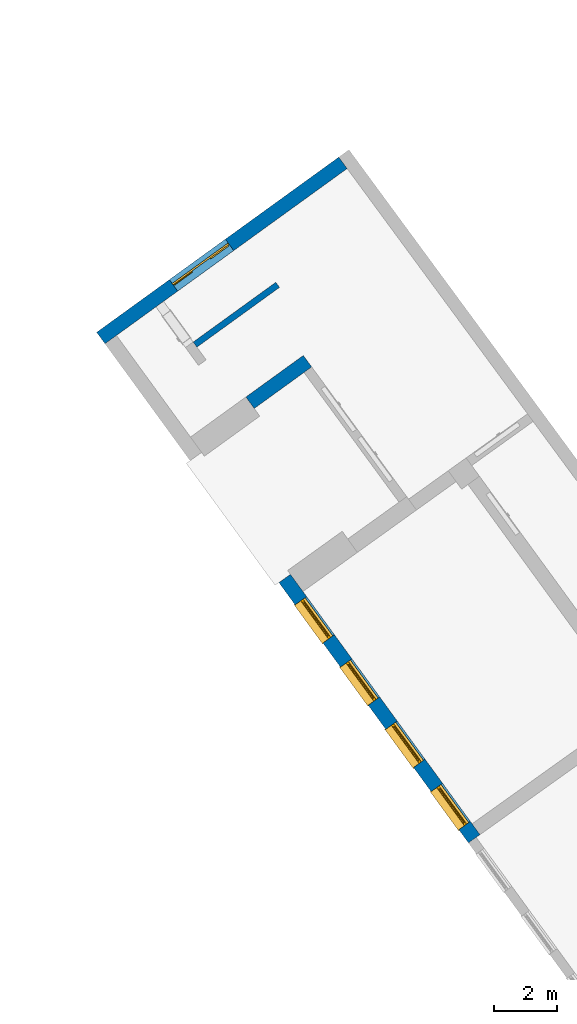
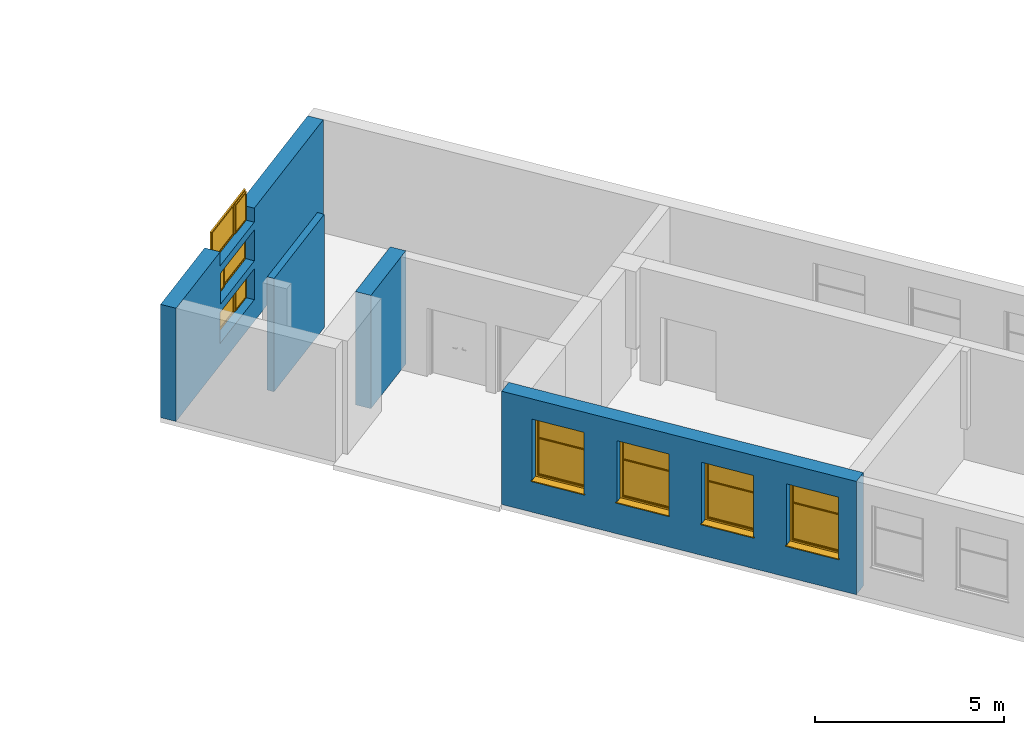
"""IFC2X3 building model written with IfcOpenShell, lengths in millimetres."""

from ifc_helpers import new_model, entity, si_unit, converted_unit, derived_unit, direction, frame, frame_2d, origin, place, context, subcontext, project, spatial, polyline, rectangle, outline, extrude, faceted_brep, source, transform, mapped, material, material_list, layer, layer_set, layer_usage, type_object, type_shapes, element, fill, save


model = new_model("IFC2X3")

# Units and contexts
model_context = context("Model", 3, precision=0.01, world=origin(), true_north=direction((6.123031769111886e-17, 1.0)))
body_context = subcontext(model_context, "Body", "Model", "MODEL_VIEW")
ifc_project = project(units=[si_unit("LENGTHUNIT", "METRE", prefix="MILLI"), si_unit("AREAUNIT", "SQUARE_METRE"), si_unit("VOLUMEUNIT", "CUBIC_METRE"), converted_unit("PLANEANGLEUNIT", "DEGREE", entity("IfcRatioMeasure", 0.017453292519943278), si_unit("PLANEANGLEUNIT", "RADIAN"), dimensions=[0, 0, 0, 0, 0, 0, 0]), si_unit("MASSUNIT", "GRAM", prefix="KILO"), derived_unit("MASSDENSITYUNIT", [(si_unit("MASSUNIT", "GRAM", prefix="KILO"), 1), (si_unit("LENGTHUNIT", "METRE"), -3)]), derived_unit("MOMENTOFINERTIAUNIT", [(si_unit("LENGTHUNIT", "METRE"), 4)]), si_unit("TIMEUNIT", "SECOND"), si_unit("FREQUENCYUNIT", "HERTZ"), si_unit("THERMODYNAMICTEMPERATUREUNIT", "DEGREE_CELSIUS"), derived_unit("THERMALTRANSMITTANCEUNIT", [(si_unit("MASSUNIT", "GRAM", prefix="KILO"), 1), (si_unit("THERMODYNAMICTEMPERATUREUNIT", "KELVIN"), -1), (si_unit("TIMEUNIT", "SECOND"), -3)]), derived_unit("THERMALCONDUCTANCEUNIT", [(si_unit("MASSUNIT", "GRAM", prefix="KILO"), 1), (si_unit("LENGTHUNIT", "METRE"), 1), (si_unit("THERMODYNAMICTEMPERATUREUNIT", "KELVIN"), -1), (si_unit("TIMEUNIT", "SECOND"), -3)]), derived_unit("VOLUMETRICFLOWRATEUNIT", [(si_unit("LENGTHUNIT", "METRE"), 3), (si_unit("TIMEUNIT", "SECOND"), -1)]), derived_unit("MASSFLOWRATEUNIT", [(si_unit("MASSUNIT", "GRAM", prefix="KILO"), 1), (si_unit("TIMEUNIT", "SECOND"), -1)]), derived_unit("ROTATIONALFREQUENCYUNIT", [(si_unit("TIMEUNIT", "SECOND"), -1)]), si_unit("ELECTRICCURRENTUNIT", "AMPERE"), si_unit("ELECTRICVOLTAGEUNIT", "VOLT"), si_unit("POWERUNIT", "WATT"), converted_unit("FORCEUNIT", "KIP", entity("IfcRatioMeasure", 2.088543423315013e-05), si_unit("FORCEUNIT", "NEWTON"), dimensions=[1, 1, -2, 0, 0, 0, 0]), si_unit("ILLUMINANCEUNIT", "LUX"), si_unit("LUMINOUSFLUXUNIT", "LUMEN"), si_unit("LUMINOUSINTENSITYUNIT", "CANDELA"), derived_unit("USERDEFINED", [(si_unit("MASSUNIT", "GRAM", prefix="KILO"), -1), (si_unit("LENGTHUNIT", "METRE"), -2), (si_unit("TIMEUNIT", "SECOND"), 3), (si_unit("LUMINOUSFLUXUNIT", "LUMEN"), 1)]), derived_unit("USERDEFINED", [(si_unit("MASSUNIT", "GRAM", prefix="KILO"), 1), (si_unit("LENGTHUNIT", "METRE"), 3), (si_unit("TIMEUNIT", "SECOND"), -3), (si_unit("ELECTRICCURRENTUNIT", "AMPERE"), -2)]), derived_unit("USERDEFINED", [(si_unit("LENGTHUNIT", "METRE"), 2), (si_unit("TIMEUNIT", "SECOND"), -2)]), derived_unit("SOUNDPOWERUNIT", [(si_unit("MASSUNIT", "GRAM", prefix="KILO"), 1), (si_unit("LENGTHUNIT", "METRE"), 2), (si_unit("TIMEUNIT", "SECOND"), -3)]), derived_unit("SOUNDPRESSUREUNIT", [(si_unit("MASSUNIT", "GRAM", prefix="KILO"), 1), (si_unit("LENGTHUNIT", "METRE"), -1), (si_unit("TIMEUNIT", "SECOND"), -2)]), derived_unit("LINEARVELOCITYUNIT", [(si_unit("LENGTHUNIT", "METRE"), 1), (si_unit("TIMEUNIT", "SECOND"), -1)]), si_unit("PRESSUREUNIT", "PASCAL"), derived_unit("USERDEFINED", [(si_unit("LENGTHUNIT", "METRE"), -2), (si_unit("MASSUNIT", "GRAM", prefix="KILO"), 1), (si_unit("TIMEUNIT", "SECOND"), -2)]), derived_unit("LINEARFORCEUNIT", [(si_unit("MASSUNIT", "GRAM", prefix="KILO"), 1), (si_unit("LENGTHUNIT", "METRE"), 1), (si_unit("TIMEUNIT", "SECOND"), -2), (si_unit("LENGTHUNIT", "METRE"), -1)]), derived_unit("PLANARFORCEUNIT", [(si_unit("MASSUNIT", "GRAM", prefix="KILO"), 1), (si_unit("LENGTHUNIT", "METRE"), 1), (si_unit("TIMEUNIT", "SECOND"), -2), (si_unit("LENGTHUNIT", "METRE"), -2)]), derived_unit("SPECIFICHEATCAPACITYUNIT", [(si_unit("LENGTHUNIT", "METRE"), 2), (si_unit("TIMEUNIT", "SECOND"), -2), (si_unit("THERMODYNAMICTEMPERATUREUNIT", "KELVIN"), -1)]), derived_unit("VAPORPERMEABILITYUNIT", [(si_unit("TIMEUNIT", "SECOND"), 1), (si_unit("LENGTHUNIT", "METRE"), -1)]), derived_unit("DYNAMICVISCOSITYUNIT", [(si_unit("MASSUNIT", "GRAM", prefix="KILO"), 1), (si_unit("LENGTHUNIT", "METRE"), -1), (si_unit("TIMEUNIT", "SECOND"), -1)]), derived_unit("THERMALEXPANSIONCOEFFICIENTUNIT", [(si_unit("THERMODYNAMICTEMPERATUREUNIT", "KELVIN"), -1)])], contexts=[model_context])

# Site, building, storey
site_placement = place(None, frame((0.0, 0.0, 0.0), z_axis=(0.0, 0.0, 1.0), x_axis=(0.8191520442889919, 0.5735764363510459, 0.0)))
site = spatial("IfcSite", under=ifc_project, at=site_placement, Name="Default", CompositionType="ELEMENT")
building_placement = place(site_placement, origin())
building = spatial("IfcBuilding", under=site, at=building_placement, CompositionType="ELEMENT")
storey_1_placement = place(building_placement, origin())
storey_1 = spatial("IfcBuildingStorey", under=building, at=storey_1_placement, Name="1.EG +0.00", CompositionType="ELEMENT", Elevation=-4.331468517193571e-12)

# Wall, openings, window
ifc_material_1 = material(Name="Analytical Wall Surface_CJC")
ifc_layer_1 = layer(ifc_material_1, 450.00000000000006)
ifc_layer_set_1 = layer_set([ifc_layer_1], Name="Basic Wall:Wand_Aussen_45")
ifc_layer_usage_1 = layer_usage(ifc_layer_set_1, "AXIS2", "POSITIVE", -225.00000000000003)
wall_type_1 = type_object("IfcWallType", Name="Basic Wall:Wand_Aussen_45", PredefinedType="STANDARD", material=ifc_layer_set_1)
wall_1_placement = place(storey_1_placement, frame((-182178.95525917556, 197988.26782530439, -1150.0), z_axis=(0.0, 0.0, 1.0), x_axis=(-0.9998806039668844, -0.015452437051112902, 0.0)))
wall_1 = element("IfcWallStandardCase", 1, at=wall_1_placement, inside=storey_1, type_object=wall_type_1, material=ifc_layer_usage_1, Name="Basic Wall:Wand_Aussen_45", ObjectType="Basic Wall:Wand_Aussen_45", context=body_context, shape_type="SweptSolid", body=[
    extrude(outline(polyline([(9512.112756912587, -225.0), (9510.723220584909, 225.0), (9060.721075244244, 225.0), (7510.713685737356, 225.0), (7210.71225551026, 225.0), (0.0, 225.0), (3.521261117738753, -225.0), (9512.112756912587, -225.0)])), origin(), (0.0, 0.0, 1.0), 3650.0000000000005),
])
opening_1_placement = place(wall_1_placement, frame((6662.115200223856, 225.0, 3200.0)))
opening_1 = element("IfcOpeningElement", 2, at=opening_1_placement, cuts=wall_1, Name="Fenster_Aussen_KH_CJC:Fenster_Aussen_KH_CJC:1", ObjectType="Opening", context=body_context, shape_type="SweptSolid", body=[
    extrude(rectangle(XDim=999.9999999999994, YDim=2200.0, at=frame_2d((499.9999999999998, 1100.0000000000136), x_axis=(1.0, 0.0))), frame((0.0, 0.0, 0.0), z_axis=(0.0, -1.0, 0.0), x_axis=(0.0, 0.0, 1.0)), (0.0, 0.0, 1.0), 449.99999999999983),
])
opening_2_placement = place(wall_1_placement, frame((6655.162433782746, 225.0, 1950.0)))
opening_2 = element("IfcOpeningElement", 3, at=opening_2_placement, cuts=wall_1, Name="Fenster_Aussen_KH_CJC:Fenster_Aussen_KH_CJC:1", ObjectType="Opening", context=body_context, shape_type="SweptSolid", body=[
    extrude(rectangle(XDim=999.9999999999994, YDim=2200.0, at=frame_2d((499.9999999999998, 1100.0), x_axis=(1.0, 0.0))), frame((0.0, 0.0, 0.0), z_axis=(0.0, -1.0, 0.0), x_axis=(0.0, 0.0, 1.0)), (0.0, 0.0, 1.0), 449.99999999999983),
])
opening_3_placement = place(wall_1_placement, frame((6662.115200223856, 225.0, 700.0)))
opening_3 = element("IfcOpeningElement", 4, at=opening_3_placement, cuts=wall_1, Name="Fenster_Aussen_KH_CJC:Fenster_Aussen_KH_CJC:1", ObjectType="Opening", context=body_context, shape_type="SweptSolid", body=[
    extrude(rectangle(XDim=999.9999999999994, YDim=2200.0, at=frame_2d((499.9999999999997, 1100.0000000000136), x_axis=(1.0, 0.0))), frame((0.0, 0.0, 0.0), z_axis=(0.0, -1.0, 0.0), x_axis=(0.0, 0.0, 1.0)), (0.0, 0.0, 1.0), 449.99999999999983),
])
ifc_material_2 = material(Name="Glass")
ifc_material_3 = material(Name="<Unnamed>")
ifc_material_list_1 = material_list([ifc_material_2, ifc_material_3])
window_style_1 = type_object("IfcWindowStyle", Name="Fenster_Aussen_KH_CJC:Fenster_Aussen_KH_CJC", ConstructionType="NOTDEFINED", OperationType="NOTDEFINED", ParameterTakesPrecedence=False, Sizeable=False, material=ifc_material_list_1)
shared_shape_1 = source(origin(), body_context, "Body", "SweptSolid", [
    extrude(rectangle(XDim=1374.9999999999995, YDim=9.999999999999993, at=frame_2d((0.0, -4.440892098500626e-15), x_axis=(1.0, 0.0))), frame((1462.5000000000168, 275.0, 50.0)), (0.0, 0.0, 1.0), 900.0000000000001),
    extrude(rectangle(XDim=645.0000000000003, YDim=9.999999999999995, at=frame_2d((-2.842170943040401e-14, 0.0), x_axis=(1.0, 0.0))), frame((387.5000000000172, 230.0, 65.0)), (0.0, 0.0, 1.0), 869.9999999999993),
    extrude(outline(polyline([(-352.5000000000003, -465.0), (352.5, -465.0), (352.5, 465.0), (-352.5000000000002, 465.0), (-352.5000000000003, -465.0)]), holes=[polyline([(-322.50000000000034, -435.0), (-322.50000000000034, 435.0), (322.50000000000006, 435.0), (322.50000000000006, -435.0), (-322.50000000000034, -435.0)])]), frame((387.5000000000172, 250.0, 500.0), z_axis=(0.0, -1.0, 0.0), x_axis=(-1.0, 0.0, 0.0)), (0.0, 0.0, 1.0), 39.99999999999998),
    extrude(outline(polyline([(-1100.0, -500.0), (1100.0, -500.0), (1100.0, 500.0), (-1100.0, 500.0), (-1100.0, -500.0)]), holes=[polyline([(325.0, -450.0), (-1050.0, -450.0), (-1050.0, 450.0), (325.0, 450.0), (325.0, -450.0)]), polyline([(375.0, -450.0), (375.0, 450.0), (1050.0, 450.0), (1050.0, -450.0), (375.0, -450.0)])]), frame((1100.0, 300.0, 500.0), z_axis=(0.0, -1.0, 0.0), x_axis=(-1.0, 0.0, 0.0)), (0.0, 0.0, 1.0), 50.0),
])
type_shapes(window_style_1, [shared_shape_1])
window_1_placement = place(opening_2_placement, frame((0.0, 0.0, 0.0), z_axis=(0.0, 0.0, 1.0), x_axis=(-1.0, 0.0, 0.0)))
window_1 = element("IfcWindow", 5, at=window_1_placement, inside=storey_1, type_object=window_style_1, material=ifc_material_list_1, Name="Fenster_Aussen_KH_CJC:Fenster_Aussen_KH_CJC", ObjectType="Fenster_Aussen_KH_CJC:Fenster_Aussen_KH_CJC", OverallHeight=999.9999999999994, OverallWidth=2199.999999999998, context=body_context, shape_type="MappedRepresentation", body=[
    mapped(shared_shape_1, transform((0.0, 0.0, 0.0), scale=1.0)),
])
fill(opening_2, window_1)

# Storey
storey_2_placement = place(building_placement, frame((0.0, 0.0, -1150.0)))
storey_2 = spatial("IfcBuildingStorey", under=building, at=storey_2_placement, Name="6.EG KH -1.15", CompositionType="ELEMENT", Elevation=-1150.0000000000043)

# Window
window_style_2 = type_object("IfcWindowStyle", Name="Fenster_Aussen_KH_CJC:Fenster_Aussen_KH_CJC", ConstructionType="NOTDEFINED", OperationType="NOTDEFINED", ParameterTakesPrecedence=False, Sizeable=False, material=ifc_material_list_1)
shared_shape_2 = source(origin(), body_context, "Body", "SweptSolid", [
    extrude(rectangle(XDim=9.999999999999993, YDim=1374.9999999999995, at=frame_2d((4.440892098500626e-15, 0.0), x_axis=(1.0, 0.0))), frame((737.4999999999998, 275.0, 50.0), z_axis=(0.0, 0.0, 1.0), x_axis=(0.0, 1.0, 0.0)), (0.0, 0.0, 1.0), 900.0000000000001),
    extrude(rectangle(XDim=9.999999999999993, YDim=645.0000000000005, at=frame_2d((8.881784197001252e-16, -8.526512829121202e-14), x_axis=(1.0, 0.0))), frame((1812.499999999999, 230.0, 65.0), z_axis=(0.0, 0.0, 1.0), x_axis=(0.0, 1.0, 0.0)), (0.0, 0.0, 1.0), 869.9999999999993),
    extrude(outline(polyline([(-352.5000000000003, -465.0), (352.5000000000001, -465.0), (352.5000000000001, 465.0), (-352.5000000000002, 465.0), (-352.5000000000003, -465.0)]), holes=[polyline([(-322.5000000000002, -435.0), (-322.5000000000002, 435.0), (322.50000000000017, 435.0), (322.50000000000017, -435.0), (-322.5000000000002, -435.0)])]), frame((1812.4999999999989, 210.0, 500.0), z_axis=(0.0, 1.0, 0.0), x_axis=(1.0, 0.0, 0.0)), (0.0, 0.0, 1.0), 39.99999999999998),
    extrude(outline(polyline([(-1100.0, -500.0), (1100.0, -500.0), (1100.0, 500.0), (-1100.0, 500.0), (-1100.0, -500.0)]), holes=[polyline([(325.0, -450.0), (-1050.0, -450.0), (-1050.0, 450.0), (325.0, 450.0), (325.0, -450.0)]), polyline([(375.0, -450.0), (375.0, 450.0), (1050.0, 450.0), (1050.0, -450.0), (375.0, -450.0)])]), frame((1100.0, 250.0, 500.0), z_axis=(0.0, 1.0, 0.0), x_axis=(1.0, 0.0, 0.0)), (0.0, 0.0, 1.0), 50.0),
])
type_shapes(window_style_2, [shared_shape_2])
window_2_placement = place(opening_3_placement, frame((0.0, 0.0, 0.0), z_axis=(0.0, 0.0, 1.0), x_axis=(-1.0, 0.0, 0.0)))
window_2 = element("IfcWindow", 6, at=window_2_placement, inside=storey_2, type_object=window_style_2, material=ifc_material_list_1, Name="Fenster_Aussen_KH_CJC:Fenster_Aussen_KH_CJC", ObjectType="Fenster_Aussen_KH_CJC:Fenster_Aussen_KH_CJC", OverallHeight=999.9999999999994, OverallWidth=2200.0000000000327, context=body_context, shape_type="MappedRepresentation", body=[
    mapped(shared_shape_2, transform((0.0, 0.0, 0.0), scale=1.0)),
])

fill(opening_3, window_2)

window_3_placement = place(opening_1_placement, frame((0.0, 0.0, 0.0), z_axis=(0.0, 0.0, 1.0), x_axis=(-1.0, 0.0, 0.0)))
window_3 = element("IfcWindow", 7, at=window_3_placement, inside=storey_1, type_object=window_style_2, material=ifc_material_list_1, Name="Fenster_Aussen_KH_CJC:Fenster_Aussen_KH_CJC", ObjectType="Fenster_Aussen_KH_CJC:Fenster_Aussen_KH_CJC", OverallHeight=999.9999999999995, OverallWidth=2200.0000000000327, context=body_context, shape_type="MappedRepresentation", body=[
    mapped(shared_shape_2, transform((0.0, 0.0, 0.0), scale=1.0)),
])

fill(opening_1, window_3)

# Wall, openings, windows
ifc_layer_usage_2 = layer_usage(ifc_layer_set_1, "AXIS2", "NEGATIVE", 225.00000000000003)
wall_2_placement = place(storey_1_placement, frame((-191095.77080403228, 177972.46779767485, -1150.0), z_axis=(0.0, 0.0, 1.0), x_axis=(-0.01853983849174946, 0.9998281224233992, 0.0)))
wall_2 = element("IfcWallStandardCase", 8, at=wall_2_placement, inside=storey_1, type_object=wall_type_1, material=ifc_layer_usage_2, Name="Basic Wall:Wand_Aussen_45", ObjectType="Basic Wall:Wand_Aussen_45", context=body_context, shape_type="SweptSolid", body=[
    extrude(outline(polyline([(10245.939618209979, -225.0), (10249.087066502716, 225.0), (4.136605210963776, 225.0), (0.0, -225.0), (425.0179561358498, -225.0), (9570.923107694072, -225.0), (10245.939618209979, -225.0)])), origin(), (0.0, 0.0, 1.0), 3650.000000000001),
])
opening_4_placement = place(wall_2_placement, frame((2020.9231076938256, 225.0, 1000.0)))
opening_4 = element("IfcOpeningElement", 9, at=opening_4_placement, cuts=wall_2, Name="Windows_Sgl_Horz_Bars:200x150:1", ObjectType="Opening", context=body_context, shape_type="SweptSolid", body=[
    extrude(rectangle(XDim=2000.000000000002, YDim=1500.0, at=frame_2d((1000.0000000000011, 750.0000000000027), x_axis=(-1.0, 0.0))), frame((0.0, 0.0, 0.0), z_axis=(0.0, -1.0, 0.0), x_axis=(0.0, 0.0, 1.0)), (0.0, 0.0, 1.0), 450.00000000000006),
])
opening_5_placement = place(wall_2_placement, frame((4470.923107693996, 225.0, 1000.0)))
opening_5 = element("IfcOpeningElement", 10, at=opening_5_placement, cuts=wall_2, Name="Windows_Sgl_Horz_Bars:200x150:1", ObjectType="Opening", context=body_context, shape_type="SweptSolid", body=[
    extrude(rectangle(XDim=2000.000000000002, YDim=1500.0, at=frame_2d((1000.0000000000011, 750.0000000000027), x_axis=(-1.0, 0.0))), frame((0.0, 0.0, 0.0), z_axis=(0.0, -1.0, 0.0), x_axis=(0.0, 0.0, 1.0)), (0.0, 0.0, 1.0), 450.00000000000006),
])
opening_6_placement = place(wall_2_placement, frame((6920.9231076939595, 225.0, 1000.0)))
opening_6 = element("IfcOpeningElement", 11, at=opening_6_placement, cuts=wall_2, Name="Windows_Sgl_Horz_Bars:200x150:1", ObjectType="Opening", context=body_context, shape_type="SweptSolid", body=[
    extrude(rectangle(XDim=2000.000000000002, YDim=1500.0, at=frame_2d((1000.0000000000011, 750.0000000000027), x_axis=(-1.0, 0.0))), frame((0.0, 0.0, 0.0), z_axis=(0.0, -1.0, 0.0), x_axis=(0.0, 0.0, 1.0)), (0.0, 0.0, 1.0), 450.00000000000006),
])
opening_7_placement = place(wall_2_placement, frame((9370.923107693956, 225.0, 1000.0)))
opening_7 = element("IfcOpeningElement", 12, at=opening_7_placement, cuts=wall_2, Name="Windows_Sgl_Horz_Bars:200x150:1", ObjectType="Opening", context=body_context, shape_type="SweptSolid", body=[
    extrude(rectangle(XDim=2000.000000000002, YDim=1500.0, at=frame_2d((1000.0000000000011, 750.0000000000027), x_axis=(-1.0, 0.0))), frame((0.0, 0.0, 0.0), z_axis=(0.0, -1.0, 0.0), x_axis=(0.0, 0.0, 1.0)), (0.0, 0.0, 1.0), 450.00000000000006),
])
ifc_material_4 = material(Name="Window Frame")
ifc_material_list_2 = material_list([ifc_material_4, ifc_material_2])
window_style_3 = type_object("IfcWindowStyle", Name="Windows_Sgl_Horz_Bars:200x150", ConstructionType="NOTDEFINED", OperationType="SINGLE_PANEL", ParameterTakesPrecedence=False, Sizeable=False, material=ifc_material_list_2)
shared_shape_3 = source(origin(), body_context, "Body", "Brep", [
    faceted_brep([(1525.0, -8.086864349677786, 0.0), (-25.0, -8.086864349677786, 0.0), (-25.0, 16.913135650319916, 0.0), (0.0, 16.913135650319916, 0.0), (0.0, 233.91313565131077, 0.0), (1500.0, 233.91313565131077, 0.0), (1500.0, 16.913135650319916, 0.0), (1525.0, 16.913135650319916, 0.0), (1525.0, -8.086864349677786, 25.0), (1525.0, 16.913135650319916, 25.0), (1500.0, 16.913135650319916, 25.0), (1500.0, 233.91313565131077, 25.0), (0.0, 233.91313565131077, 25.0), (0.0, 16.913135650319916, 25.0), (-25.0, 16.913135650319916, 25.0), (-25.0, -8.086864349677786, 25.0)], [[[0, 1, 2, 3, 4, 5, 6, 7]], [[8, 9, 10, 11, 12, 13, 14, 15]], [[7, 9, 8, 0]], [[6, 10, 9, 7]], [[5, 11, 10, 6]], [[4, 12, 11, 5]], [[3, 13, 12, 4]], [[2, 14, 13, 3]], [[1, 15, 14, 2]], [[0, 8, 15, 1]]]),
    faceted_brep([(1500.0, 233.91313565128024, 0.0), (1500.0, 233.91313565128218, 2000.0), (0.0, 233.9131356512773, 2000.0), (0.0, 233.9131356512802, 0.0), (1440.0, 233.91313565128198, 1940.0), (1440.0, 233.91313565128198, 75.0), (60.0, 233.91313565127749, 75.0), (60.0, 233.91313565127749, 1940.0), (1500.0, 404.4131356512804, 0.0), (1500.0, 404.4131356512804, 33.80888466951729), (1500.0, 331.9131356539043, 44.74496761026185), (1500.0, 331.9131356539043, 49.68767004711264), (1500.0, 316.9131356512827, 51.0), (1500.0, 316.9131356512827, 2000.0), (1460.0, 316.9131356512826, 1960.0), (40.0, 316.91313565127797, 1960.0), (40.0, 316.91313565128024, 63.0), (1460.0, 316.9131356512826, 63.0), (0.0, 316.91313565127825, 51.0), (0.0, 316.91313565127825, 2000.0), (1460.0, 251.9131356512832, 63.0), (1460.0, 251.9131356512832, 1960.0), (40.0, 251.91313565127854, 63.0), (40.0, 251.91313565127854, 1960.0), (1440.0, 251.9131356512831, 1940.0), (60.0, 251.91313565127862, 1940.0), (60.0, 251.9131356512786, 75.0), (1440.0, 251.91313565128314, 75.0), (0.0, 331.9131356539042, 49.68767004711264), (0.0, 331.9131356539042, 44.74496761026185), (0.0, 404.41313565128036, 33.80888466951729), (0.0, 404.41313565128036, 0.0)], [[[0, 1, 2, 3], [4, 5, 6, 7]], [[0, 8, 9, 10, 11, 12, 13, 1]], [[14, 15, 16, 17], [12, 18, 19, 13]], [[17, 20, 21, 14]], [[21, 20, 22, 23], [24, 25, 26, 27]], [[24, 27, 5, 4]], [[1, 13, 19, 2]], [[14, 21, 23, 15]], [[7, 25, 24, 4]], [[18, 28, 29, 30, 31, 3, 2, 19]], [[15, 23, 22, 16]], [[7, 6, 26, 25]], [[31, 8, 0, 3]], [[30, 9, 8, 31]], [[29, 10, 9, 30]], [[28, 11, 10, 29]], [[18, 12, 11, 28]], [[20, 17, 16, 22]], [[5, 27, 26, 6]]], outer=[[True, False], [True], [False, True], [True], [True, False], [True], [True], [True], [True], [True], [True], [True], [True], [True], [True], [True], [True], [True], [True]]),
    faceted_brep([(69.85196227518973, 280.91313565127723, 93.0), (1430.0, 280.91313565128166, 93.0), (1430.0, 280.9131356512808, 1254.8307627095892), (69.85196227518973, 280.9131356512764, 1254.8307627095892), (69.8519622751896, 304.9131356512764, 1254.8307627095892), (69.8519622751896, 304.91313565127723, 93.0), (1430.0, 304.9131356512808, 1254.8307627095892), (1430.0, 304.9131356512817, 93.0)], [[[0, 1, 2, 3]], [[3, 4, 5, 0]], [[2, 6, 4, 3]], [[1, 7, 6, 2]], [[0, 5, 7, 1]], [[5, 4, 6, 7]]]),
    faceted_brep([(1430.0, 304.9131356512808, 1265.1692372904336), (69.85196227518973, 304.9131356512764, 1265.1692372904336), (69.85196227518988, 304.91313565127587, 1930.0), (1430.0, 304.9131356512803, 1930.0), (69.85196227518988, 280.9131356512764, 1265.1692372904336), (1430.0, 280.9131356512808, 1265.1692372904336), (69.85196227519, 280.91313565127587, 1930.0), (1430.0, 280.9131356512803, 1930.0)], [[[0, 1, 2, 3]], [[4, 1, 0, 5]], [[6, 2, 1, 4]], [[7, 3, 2, 6]], [[5, 0, 3, 7]], [[5, 7, 6, 4]]]),
    faceted_brep([(69.85196227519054, 328.4601410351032, 1265.1692372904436), (69.85196227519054, 328.4601410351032, 1254.8307627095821), (69.85196227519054, 322.7843475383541, 1245.0), (69.85196227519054, 304.91313565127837, 1245.0), (69.85196227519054, 304.91313565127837, 1252.0), (69.85196227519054, 280.9131356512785, 1252.0), (69.85196227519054, 280.9131356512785, 1245.0), (69.85196227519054, 266.40603550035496, 1245.0), (69.85196227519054, 251.91313565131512, 1250.1480377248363), (69.85196227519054, 251.91313565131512, 1269.8519622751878), (69.85196227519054, 266.40603550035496, 1275.0), (69.85196227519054, 280.9131356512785, 1275.0), (69.85196227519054, 280.9131356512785, 1268.0), (69.85196227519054, 304.91313565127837, 1268.0), (69.85196227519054, 304.91313565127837, 1275.0), (69.85196227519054, 322.7843475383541, 1275.0), (1430.1480377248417, 328.4601410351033, 1265.1692372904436), (1430.1480377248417, 322.7843475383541, 1275.0), (1430.1480377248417, 304.9131356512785, 1275.0), (1430.1480377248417, 304.9131356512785, 1268.0), (1430.1480377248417, 280.91313565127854, 1268.0), (1430.1480377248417, 280.91313565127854, 1275.0), (1430.1480377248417, 266.406035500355, 1275.0), (1430.1480377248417, 251.91313565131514, 1269.8519622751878), (1430.1480377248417, 251.91313565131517, 1250.1480377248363), (1430.1480377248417, 266.406035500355, 1245.0), (1430.1480377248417, 280.91313565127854, 1245.0), (1430.1480377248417, 280.91313565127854, 1252.0), (1430.1480377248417, 304.9131356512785, 1252.0), (1430.1480377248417, 304.9131356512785, 1245.0), (1430.1480377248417, 322.7843475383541, 1245.0), (1430.1480377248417, 328.4601410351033, 1254.8307627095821)], [[[0, 1, 2, 3, 4, 5, 6, 7, 8, 9, 10, 11, 12, 13, 14, 15]], [[16, 17, 18, 19, 20, 21, 22, 23, 24, 25, 26, 27, 28, 29, 30, 31]], [[15, 17, 16, 0]], [[14, 18, 17, 15]], [[13, 19, 18, 14]], [[12, 20, 19, 13]], [[11, 21, 20, 12]], [[10, 22, 21, 11]], [[9, 23, 22, 10]], [[8, 24, 23, 9]], [[7, 25, 24, 8]], [[6, 26, 25, 7]], [[5, 27, 26, 6]], [[4, 28, 27, 5]], [[3, 29, 28, 4]], [[2, 30, 29, 3]], [[1, 31, 30, 2]], [[0, 16, 31, 1]]]),
    faceted_brep([(1470.0, 316.9131356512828, 1970.0), (1470.0, 316.9131356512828, 53.0), (1470.0, 322.6866383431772, 53.0), (1470.0, 322.6866383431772, 1970.0), (1460.0, 251.91313565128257, 1960.0), (1460.0, 251.91313565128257, 63.0), (1460.0, 316.9131356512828, 63.0), (1460.0, 316.9131356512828, 1960.0), (1420.0, 266.4060355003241, 1920.0), (1420.0, 266.40603550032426, 103.0), (1430.1480377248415, 251.91313565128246, 92.85196227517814), (1430.1480377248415, 251.91313565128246, 1930.148037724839), (1420.0, 280.9131356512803, 1920.0), (1420.0, 280.9131356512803, 103.0), (1430.0, 304.9131356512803, 1930.0), (1430.0, 304.9131356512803, 93.0), (1430.0, 280.91313565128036, 93.0), (1430.0, 280.91313565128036, 1930.0), (1420.0, 322.68663834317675, 1920.0), (1420.0, 322.68663834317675, 103.0), (1420.0, 304.9131356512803, 103.0), (1420.0, 304.9131356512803, 1920.0), (1430.0, 328.4601410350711, 1930.0), (1430.0, 328.4601410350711, 93.0), (1459.2153903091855, 328.46014103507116, 63.784609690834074), (1459.2153903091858, 328.46014103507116, 1959.2153903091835), (30.0, 316.913135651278, 53.0), (30.0, 322.6866383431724, 53.0), (40.0, 251.91313565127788, 63.0), (40.0, 316.9131356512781, 63.0), (80.0, 266.4060355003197, 103.0), (69.85196227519, 251.913135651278, 92.85196227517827), (80.0, 280.91313565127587, 103.0), (70.0, 304.9131356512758, 93.0), (70.0, 280.91313565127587, 93.0), (80.0, 322.6866383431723, 103.0), (80.0, 304.91313565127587, 103.0), (70.0, 328.46014103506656, 93.0), (40.78460969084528, 328.4601410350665, 63.784609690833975), (30.0, 316.913135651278, 1970.0), (30.0, 322.6866383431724, 1970.0), (40.0, 251.91313565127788, 1960.0), (40.0, 316.9131356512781, 1960.0), (80.0, 266.40603550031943, 1920.0), (69.85196227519, 251.913135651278, 1930.1480377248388), (80.0, 280.9131356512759, 1920.0), (70.0, 304.91313565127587, 1930.0), (70.0, 280.91313565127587, 1930.0), (80.0, 322.6866383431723, 1920.0), (80.0, 304.9131356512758, 1920.0), (70.0, 328.46014103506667, 1930.0), (40.78460969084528, 328.4601410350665, 1959.2153903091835)], [[[0, 1, 2, 3]], [[4, 5, 6, 7]], [[8, 9, 10, 11]], [[12, 13, 9, 8]], [[14, 15, 16, 17]], [[18, 19, 20, 21]], [[22, 23, 19, 18]], [[3, 2, 24, 25]], [[1, 26, 27, 2]], [[5, 28, 29, 6]], [[9, 30, 31, 10]], [[13, 32, 30, 9]], [[15, 33, 34, 16]], [[19, 35, 36, 20]], [[23, 37, 35, 19]], [[2, 27, 38, 24]], [[26, 39, 40, 27]], [[28, 41, 42, 29]], [[30, 43, 44, 31]], [[32, 45, 43, 30]], [[33, 46, 47, 34]], [[35, 48, 49, 36]], [[37, 50, 48, 35]], [[27, 40, 51, 38]], [[39, 0, 3, 40]], [[1, 0, 39, 26], [7, 6, 29, 42]], [[41, 4, 7, 42]], [[5, 4, 41, 28], [11, 10, 31, 44]], [[43, 8, 11, 44]], [[45, 12, 8, 43]], [[13, 12, 45, 32], [17, 16, 34, 47]], [[46, 14, 17, 47]], [[15, 14, 46, 33], [21, 20, 36, 49]], [[48, 18, 21, 49]], [[50, 22, 18, 48]], [[23, 22, 50, 37], [25, 24, 38, 51]], [[40, 3, 25, 51]]], outer=[[True], [True], [True], [True], [True], [True], [True], [True], [True], [True], [True], [True], [True], [True], [True], [True], [True], [True], [True], [True], [True], [True], [True], [True], [True], [True, False], [True], [True, False], [True], [True], [False, True], [True], [True, False], [True], [True], [False, True], [True]]),
])
type_shapes(window_style_3, [shared_shape_3])
window_4_placement = place(opening_4_placement, frame((0.0, 16.91313565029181, 0.0), z_axis=(0.0, 0.0, 1.0), x_axis=(-1.0, 0.0, 0.0)))
window_4 = element("IfcWindow", 13, at=window_4_placement, inside=storey_2, type_object=window_style_3, material=ifc_material_list_2, Name="Windows_Sgl_Horz_Bars:200x150", ObjectType="Windows_Sgl_Horz_Bars:200x150", OverallHeight=2000.0000000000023, OverallWidth=1500.0000000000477, context=body_context, shape_type="MappedRepresentation", body=[
    mapped(shared_shape_3, transform((0.0, 0.0, 0.0), scale=1.0)),
])
fill(opening_4, window_4)
window_5_placement = place(opening_5_placement, frame((0.0, 16.91313565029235, 0.0), z_axis=(0.0, 0.0, 1.0), x_axis=(-1.0, 0.0, 0.0)))
window_5 = element("IfcWindow", 14, at=window_5_placement, inside=storey_2, type_object=window_style_3, material=ifc_material_list_2, Name="Windows_Sgl_Horz_Bars:200x150", ObjectType="Windows_Sgl_Horz_Bars:200x150", OverallHeight=2000.0000000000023, OverallWidth=1500.0000000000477, context=body_context, shape_type="MappedRepresentation", body=[
    mapped(shared_shape_3, transform((0.0, 0.0, 0.0), scale=1.0)),
])
fill(opening_5, window_5)
window_6_placement = place(opening_6_placement, frame((0.0, 16.91313565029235, 0.0), z_axis=(0.0, 0.0, 1.0), x_axis=(-1.0, 0.0, 0.0)))
window_6 = element("IfcWindow", 15, at=window_6_placement, inside=storey_2, type_object=window_style_3, material=ifc_material_list_2, Name="Windows_Sgl_Horz_Bars:200x150", ObjectType="Windows_Sgl_Horz_Bars:200x150", OverallHeight=2000.0000000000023, OverallWidth=1500.0000000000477, context=body_context, shape_type="MappedRepresentation", body=[
    mapped(shared_shape_3, transform((0.0, 0.0, 0.0), scale=1.0)),
])
fill(opening_6, window_6)
window_7_placement = place(opening_7_placement, frame((0.0, 16.91313565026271, 0.0), z_axis=(0.0, 0.0, 1.0), x_axis=(-1.0, 0.0, 0.0)))
window_7 = element("IfcWindow", 16, at=window_7_placement, inside=storey_2, type_object=window_style_3, material=ifc_material_list_2, Name="Windows_Sgl_Horz_Bars:200x150", ObjectType="Windows_Sgl_Horz_Bars:200x150", OverallHeight=2000.0000000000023, OverallWidth=1500.0000000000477, context=body_context, shape_type="MappedRepresentation", body=[
    mapped(shared_shape_3, transform((0.0, 0.0, 0.0), scale=1.0)),
])
fill(opening_7, window_7)

# Walls
wall_3_placement = place(storey_1_placement, frame((-186724.353771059, 193465.32697854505, -1150.0), z_axis=(0.0, 0.0, 1.0), x_axis=(-0.9998806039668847, -0.015452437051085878, 0.0)))
element("IfcWallStandardCase", 17, at=wall_3_placement, inside=storey_1, type_object=wall_type_1, material=ifc_layer_usage_2, Name="Basic Wall:Wand_Aussen_45", ObjectType="Basic Wall:Wand_Aussen_45", context=body_context, shape_type="SweptSolid", body=[
    extrude(outline(polyline([(2256.918781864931, -225.0), (2256.9187818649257, 225.0), (300.0050420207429, 225.0), (0.0, 225.0), (2.60898163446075, -225.0), (2256.918781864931, -225.0)])), origin(), (0.0, 0.0, 1.0), 3650.0000000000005),
])
ifc_layer_2 = layer(ifc_material_1, 200.0)
ifc_layer_set_2 = layer_set([ifc_layer_2], Name="Basic Wall:Wand_Innen_20")
ifc_layer_usage_3 = layer_usage(ifc_layer_set_2, "AXIS2", "NEGATIVE", 100.0)
wall_type_2 = type_object("IfcWallType", Name="Basic Wall:Wand_Innen_20", PredefinedType="STANDARD", material=ifc_layer_set_2)
wall_4_placement = place(storey_1_placement, frame((-189354.083413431, 195950.1423160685, -1150.0), z_axis=(0.0, 0.0, 1.0), x_axis=(0.9998806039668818, 0.015452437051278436, 0.0)))
element("IfcWallStandardCase", 18, at=wall_4_placement, inside=storey_1, type_object=wall_type_2, material=ifc_layer_usage_3, Name="Basic Wall:Wand_Innen_20", ObjectType="Basic Wall:Wand_Innen_20", context=body_context, shape_type="SweptSolid", body=[
    extrude(outline(polyline([(3243.7288049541, -100.0), (3243.7288049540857, 100.0), (0.0, 100.0), (0.6175717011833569, -100.0), (3243.7288049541, -100.0)])), origin(), (0.0, 0.0, 1.0), 3650.0000000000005),
])

save(model, "model.ifc")
